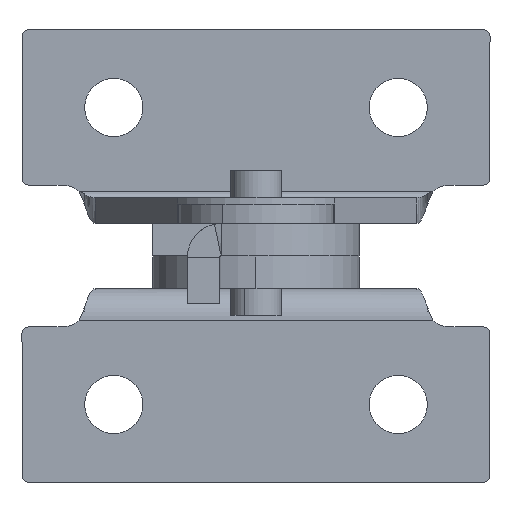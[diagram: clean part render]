
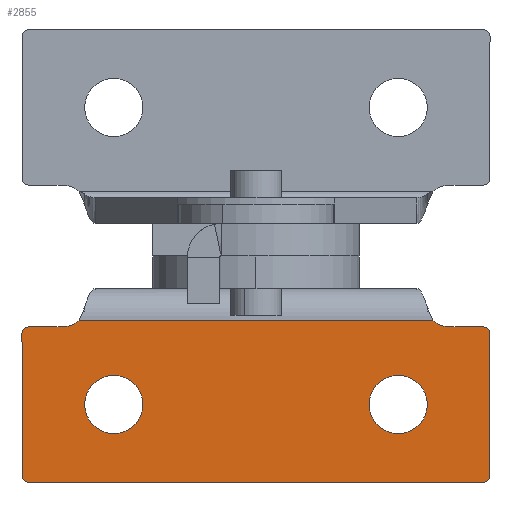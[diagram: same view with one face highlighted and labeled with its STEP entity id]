
A CAD part, left-side view. The second image highlights one B-rep face of the part: STEP entity #2855.
In plain terms, the highlighted planar face has unit normal (-1, 0, 0) as drawn and (0, 0, -1) by its records, which use the part's own axes.
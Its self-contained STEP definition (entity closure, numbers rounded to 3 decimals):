
#13 = VERTEX_POINT ( 'NONE', #1888 ) ;
#17 = VERTEX_POINT ( 'NONE', #2868 ) ;
#28 = CARTESIAN_POINT ( 'NONE',  ( -17.6, 11.5, -2. ) ) ;
#31 = AXIS2_PLACEMENT_3D ( 'NONE', #2934, #2386, #2404 ) ;
#59 = VERTEX_POINT ( 'NONE', #1164 ) ;
#69 = CIRCLE ( 'NONE', #2685, 2.25 ) ;
#71 = DIRECTION ( 'NONE',  ( 0., 0., 1. ) ) ;
#83 = CARTESIAN_POINT ( 'NONE',  ( 18.1, 0.5, -2. ) ) ;
#109 = ORIENTED_EDGE ( 'NONE', *, *, #2995, .T. ) ;
#127 = CARTESIAN_POINT ( 'NONE',  ( -15., 12., -2. ) ) ;
#135 = EDGE_CURVE ( 'NONE', #565, #146, #1777, .T. ) ;
#146 = VERTEX_POINT ( 'NONE', #190 ) ;
#179 = CARTESIAN_POINT ( 'NONE',  ( -11., 6., -2. ) ) ;
#183 = DIRECTION ( 'NONE',  ( 1., 0., 0. ) ) ;
#190 = CARTESIAN_POINT ( 'NONE',  ( -17.6, 12., -2. ) ) ;
#215 = AXIS2_PLACEMENT_3D ( 'NONE', #1644, #225, #1893 ) ;
#225 = DIRECTION ( 'NONE',  ( 0., 0., -1. ) ) ;
#292 = EDGE_CURVE ( 'NONE', #1617, #59, #1297, .T. ) ;
#334 = DIRECTION ( 'NONE',  ( 0., 0., 1. ) ) ;
#336 = AXIS2_PLACEMENT_3D ( 'NONE', #1080, #1082, #1221 ) ;
#367 = CARTESIAN_POINT ( 'NONE',  ( 15., 12.489, -2. ) ) ;
#377 = ORIENTED_EDGE ( 'NONE', *, *, #1889, .F. ) ;
#393 = EDGE_CURVE ( 'NONE', #17, #2641, #1780, .T. ) ;
#401 = EDGE_LOOP ( 'NONE', ( #1118, #2576 ) ) ;
#414 = DIRECTION ( 'NONE',  ( 1., 0., 0. ) ) ;
#415 = CARTESIAN_POINT ( 'NONE',  ( 11., 6., -2. ) ) ;
#426 = LINE ( 'NONE', #859, #1612 ) ;
#443 = LINE ( 'NONE', #367, #1561 ) ;
#465 = CARTESIAN_POINT ( 'NONE',  ( -18.1, 0.5, -2. ) ) ;
#477 = DIRECTION ( 'NONE',  ( 1., 0., 0. ) ) ;
#480 = CIRCLE ( 'NONE', #215, 0.5 ) ;
#504 = CARTESIAN_POINT ( 'NONE',  ( 17.6, 0.5, -2. ) ) ;
#514 = VERTEX_POINT ( 'NONE', #127 ) ;
#520 = DIRECTION ( 'NONE',  ( 1., 0., 0. ) ) ;
#545 = DIRECTION ( 'NONE',  ( 0., 0., -1. ) ) ;
#548 = EDGE_CURVE ( 'NONE', #2530, #584, #443, .T. ) ;
#553 = VECTOR ( 'NONE', #1377, 1000. ) ;
#565 = VERTEX_POINT ( 'NONE', #1563 ) ;
#567 = VECTOR ( 'NONE', #2453, 1000. ) ;
#584 = VERTEX_POINT ( 'NONE', #2531 ) ;
#591 = AXIS2_PLACEMENT_3D ( 'NONE', #1491, #71, #1730 ) ;
#696 = AXIS2_PLACEMENT_3D ( 'NONE', #2711, #2723, #2737 ) ;
#712 = DIRECTION ( 'NONE',  ( 0., 0., -1. ) ) ;
#713 = EDGE_CURVE ( 'NONE', #59, #1617, #69, .T. ) ;
#724 = CIRCLE ( 'NONE', #31, 2. ) ;
#737 = ORIENTED_EDGE ( 'NONE', *, *, #1175, .F. ) ;
#778 = EDGE_CURVE ( 'NONE', #565, #930, #2478, .T. ) ;
#779 = ORIENTED_EDGE ( 'NONE', *, *, #2331, .F. ) ;
#781 = DIRECTION ( 'NONE',  ( -1., 0., 0. ) ) ;
#787 = VERTEX_POINT ( 'NONE', #1862 ) ;
#801 = VERTEX_POINT ( 'NONE', #2353 ) ;
#849 = AXIS2_PLACEMENT_3D ( 'NONE', #415, #1635, #477 ) ;
#859 = CARTESIAN_POINT ( 'NONE',  ( -18.1, 0., -2. ) ) ;
#868 = CARTESIAN_POINT ( 'NONE',  ( -17.6, 0.5, -2. ) ) ;
#889 = EDGE_CURVE ( 'NONE', #787, #958, #480, .T. ) ;
#919 = ORIENTED_EDGE ( 'NONE', *, *, #135, .T. ) ;
#930 = VERTEX_POINT ( 'NONE', #465 ) ;
#951 = CIRCLE ( 'NONE', #849, 2.25 ) ;
#958 = VERTEX_POINT ( 'NONE', #1415 ) ;
#982 = CIRCLE ( 'NONE', #1384, 0.5 ) ;
#1013 = ORIENTED_EDGE ( 'NONE', *, *, #2232, .F. ) ;
#1040 = ORIENTED_EDGE ( 'NONE', *, *, #713, .T. ) ;
#1070 = AXIS2_PLACEMENT_3D ( 'NONE', #1750, #334, #1998 ) ;
#1080 = CARTESIAN_POINT ( 'NONE',  ( 15., 14., -2. ) ) ;
#1082 = DIRECTION ( 'NONE',  ( 0., 0., 1. ) ) ;
#1083 = DIRECTION ( 'NONE',  ( -1., 0., 0. ) ) ;
#1092 = VECTOR ( 'NONE', #1616, 1000. ) ;
#1108 = DIRECTION ( 'NONE',  ( 1., 0., 0. ) ) ;
#1118 = ORIENTED_EDGE ( 'NONE', *, *, #393, .T. ) ;
#1131 = CARTESIAN_POINT ( 'NONE',  ( -18.1, 12., -2. ) ) ;
#1140 = CIRCLE ( 'NONE', #2378, 0.5 ) ;
#1164 = CARTESIAN_POINT ( 'NONE',  ( -8.75, 6., -2. ) ) ;
#1170 = PLANE ( 'NONE',  #336 ) ;
#1175 = EDGE_CURVE ( 'NONE', #787, #2206, #2928, .T. ) ;
#1221 = DIRECTION ( 'NONE',  ( 1., 0., 0. ) ) ;
#1297 = CIRCLE ( 'NONE', #591, 2.25 ) ;
#1310 = FACE_OUTER_BOUND ( 'NONE', #2558, .T. ) ;
#1377 = DIRECTION ( 'NONE',  ( 0., -1., 0. ) ) ;
#1384 = AXIS2_PLACEMENT_3D ( 'NONE', #868, #2556, #1108 ) ;
#1411 = CARTESIAN_POINT ( 'NONE',  ( 15., 12., -2. ) ) ;
#1415 = CARTESIAN_POINT ( 'NONE',  ( 18.1, 11.5, -2. ) ) ;
#1445 = EDGE_CURVE ( 'NONE', #13, #801, #426, .T. ) ;
#1461 = EDGE_CURVE ( 'NONE', #13, #930, #982, .T. ) ;
#1491 = CARTESIAN_POINT ( 'NONE',  ( -11., 6., -2. ) ) ;
#1561 = VECTOR ( 'NONE', #1083, 1000. ) ;
#1563 = CARTESIAN_POINT ( 'NONE',  ( -18.1, 11.5, -2. ) ) ;
#1567 = ORIENTED_EDGE ( 'NONE', *, *, #1461, .T. ) ;
#1600 = CARTESIAN_POINT ( 'NONE',  ( 18.1, 0., -2. ) ) ;
#1612 = VECTOR ( 'NONE', #2788, 1000. ) ;
#1613 = ORIENTED_EDGE ( 'NONE', *, *, #1445, .F. ) ;
#1616 = DIRECTION ( 'NONE',  ( 0., 1., 0. ) ) ;
#1617 = VERTEX_POINT ( 'NONE', #1856 ) ;
#1626 = VECTOR ( 'NONE', #781, 1000. ) ;
#1635 = DIRECTION ( 'NONE',  ( 0., 0., 1. ) ) ;
#1644 = CARTESIAN_POINT ( 'NONE',  ( 17.6, 11.5, -2. ) ) ;
#1646 = CIRCLE ( 'NONE', #696, 2. ) ;
#1730 = DIRECTION ( 'NONE',  ( 1., 0., 0. ) ) ;
#1750 = CARTESIAN_POINT ( 'NONE',  ( 11., 6., -2. ) ) ;
#1777 = CIRCLE ( 'NONE', #2100, 0.5 ) ;
#1780 = CIRCLE ( 'NONE', #1070, 2.25 ) ;
#1836 = DIRECTION ( 'NONE',  ( 0., 0., 1. ) ) ;
#1856 = CARTESIAN_POINT ( 'NONE',  ( -13.25, 6., -2. ) ) ;
#1862 = CARTESIAN_POINT ( 'NONE',  ( 17.6, 12., -2. ) ) ;
#1870 = FACE_BOUND ( 'NONE', #1983, .T. ) ;
#1888 = CARTESIAN_POINT ( 'NONE',  ( -17.6, 0., -2. ) ) ;
#1889 = EDGE_CURVE ( 'NONE', #584, #514, #1646, .T. ) ;
#1893 = DIRECTION ( 'NONE',  ( 1., 0., 0. ) ) ;
#1895 = EDGE_CURVE ( 'NONE', #2641, #17, #951, .T. ) ;
#1930 = ORIENTED_EDGE ( 'NONE', *, *, #778, .F. ) ;
#1958 = VERTEX_POINT ( 'NONE', #83 ) ;
#1983 = EDGE_LOOP ( 'NONE', ( #1040, #3024 ) ) ;
#1998 = DIRECTION ( 'NONE',  ( 1., 0., 0. ) ) ;
#2023 = FACE_BOUND ( 'NONE', #401, .T. ) ;
#2100 = AXIS2_PLACEMENT_3D ( 'NONE', #28, #712, #183 ) ;
#2206 = VERTEX_POINT ( 'NONE', #1411 ) ;
#2215 = CARTESIAN_POINT ( 'NONE',  ( 18.1, 12., -2. ) ) ;
#2232 = EDGE_CURVE ( 'NONE', #1958, #958, #2383, .T. ) ;
#2331 = EDGE_CURVE ( 'NONE', #2206, #2530, #724, .T. ) ;
#2332 = ORIENTED_EDGE ( 'NONE', *, *, #889, .T. ) ;
#2347 = EDGE_CURVE ( 'NONE', #514, #146, #2422, .T. ) ;
#2353 = CARTESIAN_POINT ( 'NONE',  ( 17.6, 0., -2. ) ) ;
#2378 = AXIS2_PLACEMENT_3D ( 'NONE', #504, #545, #520 ) ;
#2383 = LINE ( 'NONE', #1600, #1092 ) ;
#2386 = DIRECTION ( 'NONE',  ( 0., 0., -1. ) ) ;
#2394 = ORIENTED_EDGE ( 'NONE', *, *, #548, .F. ) ;
#2404 = DIRECTION ( 'NONE',  ( 1., 0., 0. ) ) ;
#2422 = LINE ( 'NONE', #2458, #567 ) ;
#2453 = DIRECTION ( 'NONE',  ( -1., 0., 0. ) ) ;
#2458 = CARTESIAN_POINT ( 'NONE',  ( -15., 12., -2. ) ) ;
#2478 = LINE ( 'NONE', #1131, #553 ) ;
#2530 = VERTEX_POINT ( 'NONE', #2939 ) ;
#2531 = CARTESIAN_POINT ( 'NONE',  ( -13.69, 12.489, -2. ) ) ;
#2556 = DIRECTION ( 'NONE',  ( 0., 0., -1. ) ) ;
#2558 = EDGE_LOOP ( 'NONE', ( #737, #2332, #1013, #109, #1613, #1567, #1930, #919, #2984, #377, #2394, #779 ) ) ;
#2576 = ORIENTED_EDGE ( 'NONE', *, *, #1895, .T. ) ;
#2641 = VERTEX_POINT ( 'NONE', #3126 ) ;
#2685 = AXIS2_PLACEMENT_3D ( 'NONE', #179, #1836, #414 ) ;
#2711 = CARTESIAN_POINT ( 'NONE',  ( -15., 14., -2. ) ) ;
#2723 = DIRECTION ( 'NONE',  ( 0., 0., -1. ) ) ;
#2737 = DIRECTION ( 'NONE',  ( 1., 0., 0. ) ) ;
#2788 = DIRECTION ( 'NONE',  ( 1., 0., 0. ) ) ;
#2855 = ADVANCED_FACE ( 'NONE', ( #1310, #2023, #1870 ), #1170, .F. ) ;
#2868 = CARTESIAN_POINT ( 'NONE',  ( 13.25, 6., -2. ) ) ;
#2928 = LINE ( 'NONE', #2215, #1626 ) ;
#2934 = CARTESIAN_POINT ( 'NONE',  ( 15., 14., -2. ) ) ;
#2939 = CARTESIAN_POINT ( 'NONE',  ( 13.69, 12.489, -2. ) ) ;
#2984 = ORIENTED_EDGE ( 'NONE', *, *, #2347, .F. ) ;
#2995 = EDGE_CURVE ( 'NONE', #1958, #801, #1140, .T. ) ;
#3024 = ORIENTED_EDGE ( 'NONE', *, *, #292, .T. ) ;
#3126 = CARTESIAN_POINT ( 'NONE',  ( 8.75, 6., -2. ) ) ;
